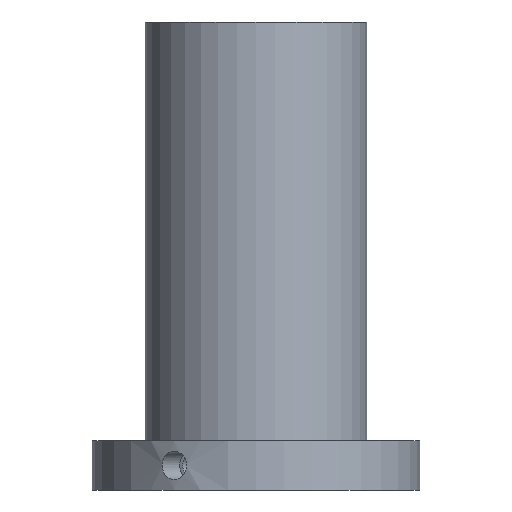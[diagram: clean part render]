
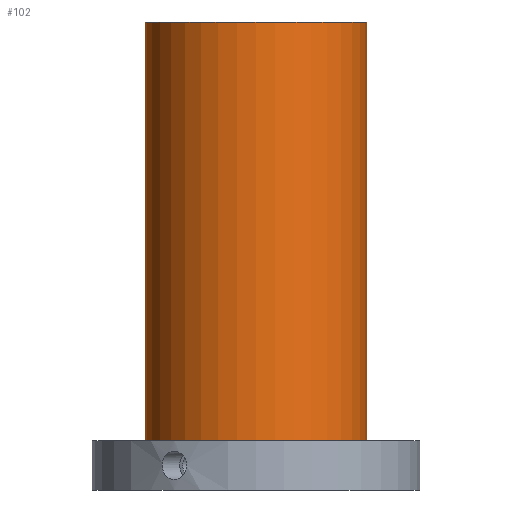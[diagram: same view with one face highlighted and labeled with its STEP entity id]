
A CAD part, front view. The second image highlights one B-rep face of the part: STEP entity #102.
In plain terms, the highlighted cylindrical face has radius 31.5 mm (diameter 63 mm), a full revolution.
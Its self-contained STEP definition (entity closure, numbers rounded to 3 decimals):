
#102=ADVANCED_FACE('',(#136,#137),#119,.T.);
#119=CYLINDRICAL_SURFACE('',#371,31.5);
#136=FACE_BOUND('',#188,.T.);
#137=FACE_BOUND('',#189,.T.);
#188=EDGE_LOOP('',(#240));
#189=EDGE_LOOP('',(#241));
#240=ORIENTED_EDGE('',*,*,#318,.F.);
#241=ORIENTED_EDGE('',*,*,#319,.T.);
#292=VERTEX_POINT('',#557);
#293=VERTEX_POINT('',#559);
#318=EDGE_CURVE('',#292,#292,#343,.T.);
#319=EDGE_CURVE('',#293,#293,#344,.T.);
#343=CIRCLE('',#369,31.5);
#344=CIRCLE('',#370,31.5);
#369=AXIS2_PLACEMENT_3D('',#556,#415,#416);
#370=AXIS2_PLACEMENT_3D('',#558,#417,#418);
#371=AXIS2_PLACEMENT_3D('',#560,#419,#420);
#415=DIRECTION('',(0.,0.,-1.));
#416=DIRECTION('',(1.,0.,0.));
#417=DIRECTION('',(0.,0.,-1.));
#418=DIRECTION('',(1.,0.,0.));
#419=DIRECTION('',(0.,0.,-1.));
#420=DIRECTION('',(-1.,0.,0.));
#556=CARTESIAN_POINT('',(0.,0.,14.));
#557=CARTESIAN_POINT('',(31.5,0.,14.));
#558=CARTESIAN_POINT('',(0.,0.,133.));
#559=CARTESIAN_POINT('',(31.5,0.,133.));
#560=CARTESIAN_POINT('',(0.,0.,133.));
